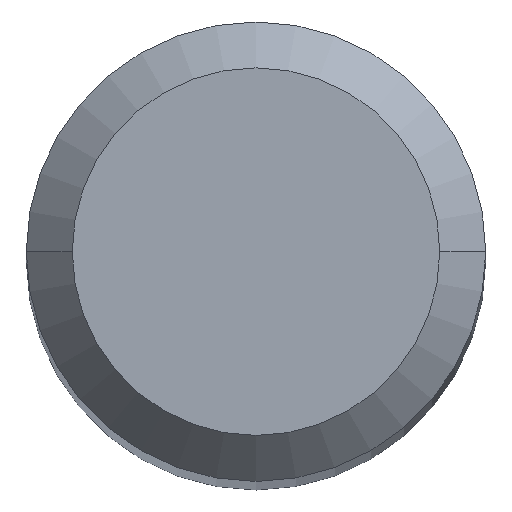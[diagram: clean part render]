
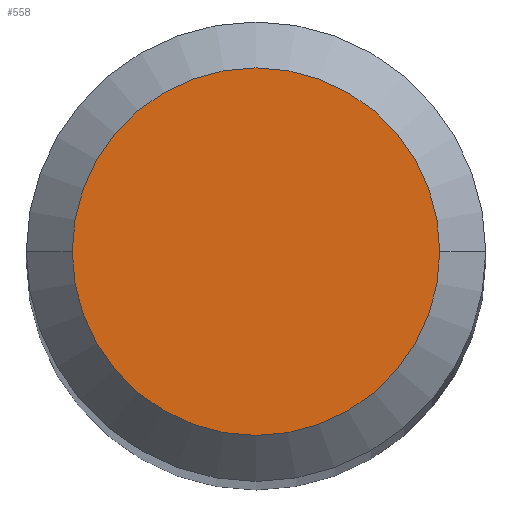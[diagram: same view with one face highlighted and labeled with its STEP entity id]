
A CAD part, top view. The second image highlights one B-rep face of the part: STEP entity #558.
In plain terms, the highlighted planar face has unit normal (0, 0, 1).
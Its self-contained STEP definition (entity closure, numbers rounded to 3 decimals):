
#5 = ORIENTED_EDGE ( 'NONE', *, *, #619, .F. ) ;
#70 = VERTEX_POINT ( 'NONE', #610 ) ;
#95 = DIRECTION ( 'NONE',  ( -1., 0., 0. ) ) ;
#152 = VERTEX_POINT ( 'NONE', #524 ) ;
#193 = DIRECTION ( 'NONE',  ( -1., 0., 0. ) ) ;
#194 = AXIS2_PLACEMENT_3D ( 'NONE', #472, #423, #425 ) ;
#212 = EDGE_CURVE ( 'NONE', #70, #152, #589, .T. ) ;
#229 = FACE_OUTER_BOUND ( 'NONE', #253, .T. ) ;
#253 = EDGE_LOOP ( 'NONE', ( #5, #387 ) ) ;
#327 = CARTESIAN_POINT ( 'NONE',  ( 0., 0., 0. ) ) ;
#336 = AXIS2_PLACEMENT_3D ( 'NONE', #486, #574, #193 ) ;
#387 = ORIENTED_EDGE ( 'NONE', *, *, #212, .F. ) ;
#423 = DIRECTION ( 'NONE',  ( 0., 0., 1. ) ) ;
#425 = DIRECTION ( 'NONE',  ( 1., 0., 0. ) ) ;
#459 = CIRCLE ( 'NONE', #621, 1.6 ) ;
#472 = CARTESIAN_POINT ( 'NONE',  ( 0., 1.6, 0. ) ) ;
#486 = CARTESIAN_POINT ( 'NONE',  ( 0., 0., 0. ) ) ;
#524 = CARTESIAN_POINT ( 'NONE',  ( -1.6, 0., 0. ) ) ;
#558 = ADVANCED_FACE ( 'NONE', ( #229 ), #618, .T. ) ;
#574 = DIRECTION ( 'NONE',  ( 0., 0., -1. ) ) ;
#575 = DIRECTION ( 'NONE',  ( 0., 0., -1. ) ) ;
#589 = CIRCLE ( 'NONE', #336, 1.6 ) ;
#610 = CARTESIAN_POINT ( 'NONE',  ( 1.6, 0., 0. ) ) ;
#618 = PLANE ( 'NONE',  #194 ) ;
#619 = EDGE_CURVE ( 'NONE', #152, #70, #459, .T. ) ;
#621 = AXIS2_PLACEMENT_3D ( 'NONE', #327, #575, #95 ) ;
